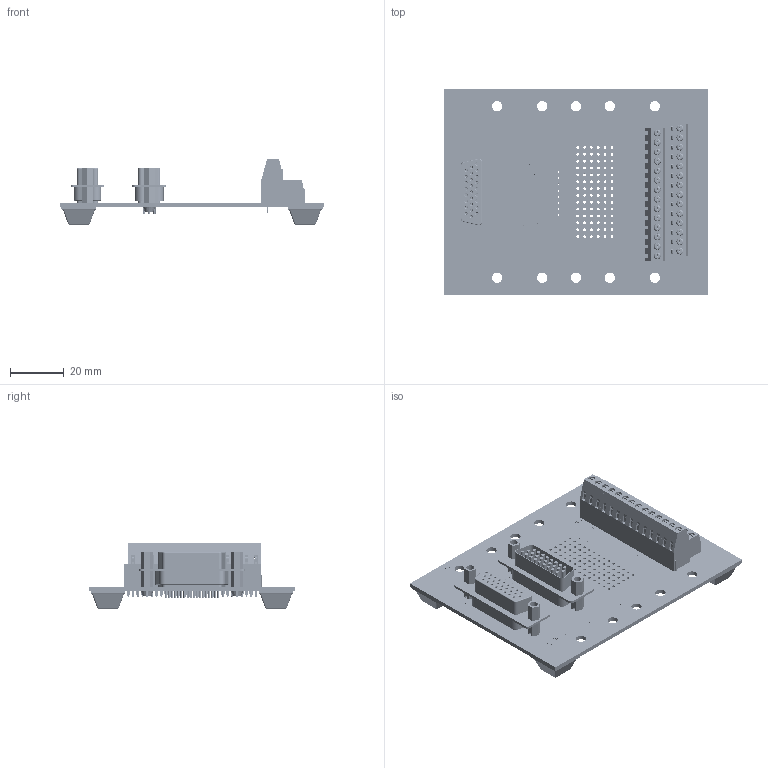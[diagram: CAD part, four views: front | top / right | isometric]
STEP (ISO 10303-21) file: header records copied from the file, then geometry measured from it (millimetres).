
FILE_DESCRIPTION (( 'STEP AP214' ), '1' );
FILE_NAME ('brkdd26hdmf-s-ft_rev_a.stp', '2018-04-30T00:45:53', ( '' ), ( '' ), 'SwSTEP 2.0', 'SolidWorks 2017', '' );
FILE_SCHEMA (( 'AUTOMOTIVE_DESIGN' ));
Length unit declared in the file: inch
Products named in the file (7): Male Straight 26 Pin; brkdd26hdmf-s-ft_rev_a; BRKDD26HDMF Board; Female Straight 26 Pin; Square Rubber Feet; Screw Terminal Double Decker 6; Screw Terminal Double Decker 4
Assembly tree (12 placements, depth 2):
  brkdd26hdmf-s-ft_rev_a
    BRKDD26HDMF Board
    Male Straight 26 Pin
    Screw Terminal Double Decker 4
    Screw Terminal Double Decker 6  x4
    Square Rubber Feet  x4
    Female Straight 26 Pin
Bounding box: 97.79 x 76.2 x 24.14 mm (x, y, z)
Volume: 25799.4 mm3; surface area: 41357.5 mm2
Topology: 76 solids, 76 shells, 7567 faces, 19929 edges, 12810 vertices
Faces by surface type: plane 4231, cylinder 1802, bspline 1112, torus 286, cone 120, sphere 16
Full cylindrical faces by diameter (mm): 0.635 x10, 0.711 x8, 0.762 x78, 1.016 x84, 1.05 x52, 1.092 x28, 1.27 x26, 1.35 x28, 1.6 x28, 1.9 x28, 2 x168, 2.583 x28, 2.68 x28, 2.845 x4, 3.302 x4, 3.81 x10
Entity records: 227075 total; most frequent: CARTESIAN_POINT 85307, ORIENTED_EDGE 20774, DIRECTION 16961, EDGE_CURVE 10387, VERTEX_POINT 7030, VECTOR 6737, LINE 6737, EDGE_LOOP 5413
